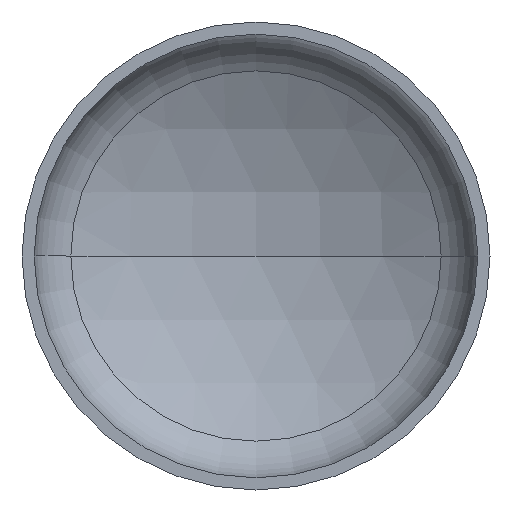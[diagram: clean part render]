
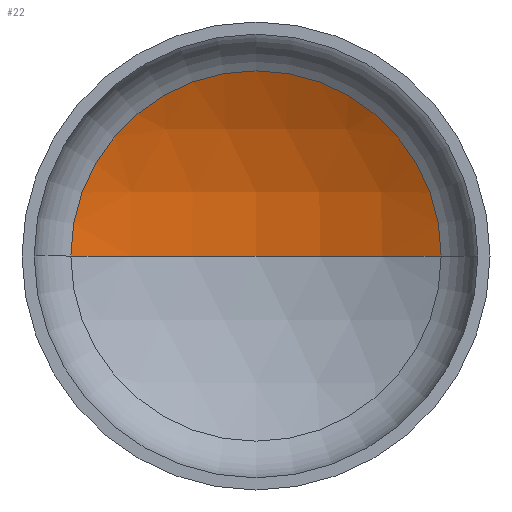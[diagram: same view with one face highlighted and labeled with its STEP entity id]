
A CAD part, front view. The second image highlights one B-rep face of the part: STEP entity #22.
In plain terms, the highlighted spherical face has radius 1600 mm.
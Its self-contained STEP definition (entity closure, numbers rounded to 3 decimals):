
#11 = CARTESIAN_POINT ( 'NONE',  ( 0., 389.432, 0. ) ) ;
#12 = CARTESIAN_POINT ( 'NONE',  ( 0., -1001.185, 0. ) ) ;
#18 = EDGE_LOOP ( 'NONE', ( #86, #67, #372 ) ) ;
#20 = VERTEX_POINT ( 'NONE', #298 ) ;
#22 = ADVANCED_FACE ( 'NONE', ( #369 ), #308, .F. ) ;
#41 = VERTEX_POINT ( 'NONE', #236 ) ;
#67 = ORIENTED_EDGE ( 'NONE', *, *, #218, .T. ) ;
#86 = ORIENTED_EDGE ( 'NONE', *, *, #219, .F. ) ;
#101 = DIRECTION ( 'NONE',  ( 1., 0., 0. ) ) ;
#122 = VERTEX_POINT ( 'NONE', #335 ) ;
#129 = AXIS2_PLACEMENT_3D ( 'NONE', #209, #381, #172 ) ;
#134 = AXIS2_PLACEMENT_3D ( 'NONE', #12, #244, #402 ) ;
#137 = AXIS2_PLACEMENT_3D ( 'NONE', #11, #336, #101 ) ;
#145 = CIRCLE ( 'NONE', #137, 791.318 ) ;
#172 = DIRECTION ( 'NONE',  ( 1., 0., 0. ) ) ;
#184 = AXIS2_PLACEMENT_3D ( 'NONE', #287, #353, #265 ) ;
#209 = CARTESIAN_POINT ( 'NONE',  ( 0., -1001.185, 0. ) ) ;
#213 = EDGE_CURVE ( 'NONE', #20, #41, #145, .T. ) ;
#218 = EDGE_CURVE ( 'NONE', #122, #20, #406, .T. ) ;
#219 = EDGE_CURVE ( 'NONE', #122, #41, #289, .T. ) ;
#236 = CARTESIAN_POINT ( 'NONE',  ( -791.318, 389.432, 0. ) ) ;
#244 = DIRECTION ( 'NONE',  ( 0., 0., -1. ) ) ;
#265 = DIRECTION ( 'NONE',  ( -1., 0., 0. ) ) ;
#287 = CARTESIAN_POINT ( 'NONE',  ( 0., -1001.185, 0. ) ) ;
#289 = CIRCLE ( 'NONE', #129, 1600. ) ;
#298 = CARTESIAN_POINT ( 'NONE',  ( 791.318, 389.432, 0. ) ) ;
#308 = SPHERICAL_SURFACE ( 'NONE', #184, 1600. ) ;
#335 = CARTESIAN_POINT ( 'NONE',  ( 0., 598.815, 0. ) ) ;
#336 = DIRECTION ( 'NONE',  ( 0., -1., 0. ) ) ;
#353 = DIRECTION ( 'NONE',  ( 0., 0., -1. ) ) ;
#369 = FACE_OUTER_BOUND ( 'NONE', #18, .T. ) ;
#372 = ORIENTED_EDGE ( 'NONE', *, *, #213, .T. ) ;
#381 = DIRECTION ( 'NONE',  ( 0., 0., 1. ) ) ;
#402 = DIRECTION ( 'NONE',  ( -1., 0., 0. ) ) ;
#406 = CIRCLE ( 'NONE', #134, 1600. ) ;
